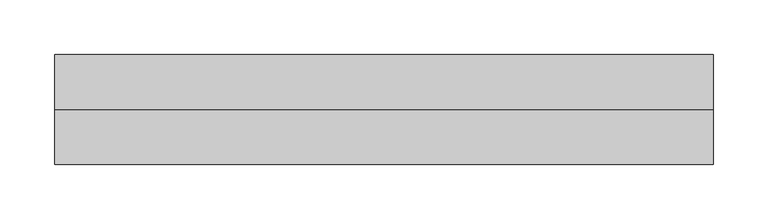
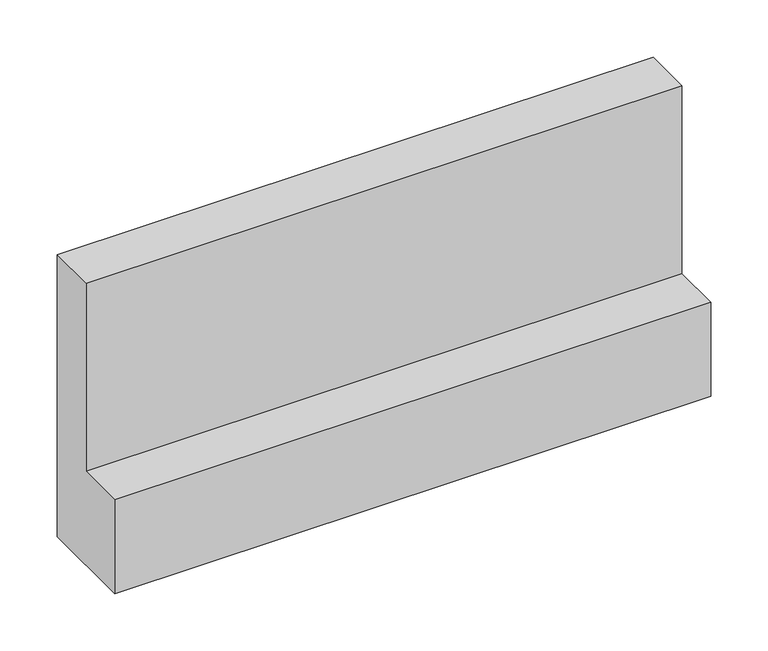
"""IFC4 building model written with IfcOpenShell, lengths in millimetres: proxy geometry, Módulo L de Concreto Celular - Celucon : MLCC 10x30x60cm (L x A x C)."""

from ifc_helpers import new_model, si_unit, frame, origin, place, context, project, spatial, polyline, outline, extrude, source, transform, mapped, element, save


def generic_models_cf0e5051(model_context):
    return source(origin(), model_context, "Body", "SweptSolid", [
        extrude(outline(polyline([(50.0, 0.0), (-50.0, 0.0), (-50.0, 100.0), (0.0, 100.0), (0.0, 300.0), (50.0, 300.0), (50.0, 0.0)])), frame((-300.0, 0.0, 0.0), z_axis=(1.0, 0.0, 0.0), x_axis=(0.0, 1.0, 0.0)), (0.0, 0.0, 1.0), 600.0),
    ])


if __name__ == "__main__":
    model = new_model("IFC4")
    model_context = context("Model", 3, world=origin())
    ifc_project = project(units=[si_unit("LENGTHUNIT", "METRE", prefix="MILLI")], contexts=[model_context])
    site = spatial("IfcSite", under=ifc_project)
    building = spatial("IfcBuilding", under=site)
    placement = place(None, origin())
    generic_models_shape = generic_models_cf0e5051(model_context)
    element("IfcBuildingElementProxy", 1, Name="Módulo L de Concreto Celular - Celucon : MLCC 10x30x60cm (L x A x C)", ObjectType="Módulo L de Concreto Celular - Celucon : MLCC 10x30x60cm (L x A x C)", at=placement, inside=building, context=model_context, shape_type="MappedRepresentation", body=[
        mapped(generic_models_shape, transform((0.0, 0.0, 0.0), x_axis=(1.0, 0.0, 0.0), y_axis=(0.0, 1.0, 0.0), z_axis=(0.0, 0.0, 1.0))),
    ])
    save(model, "model.ifc")
